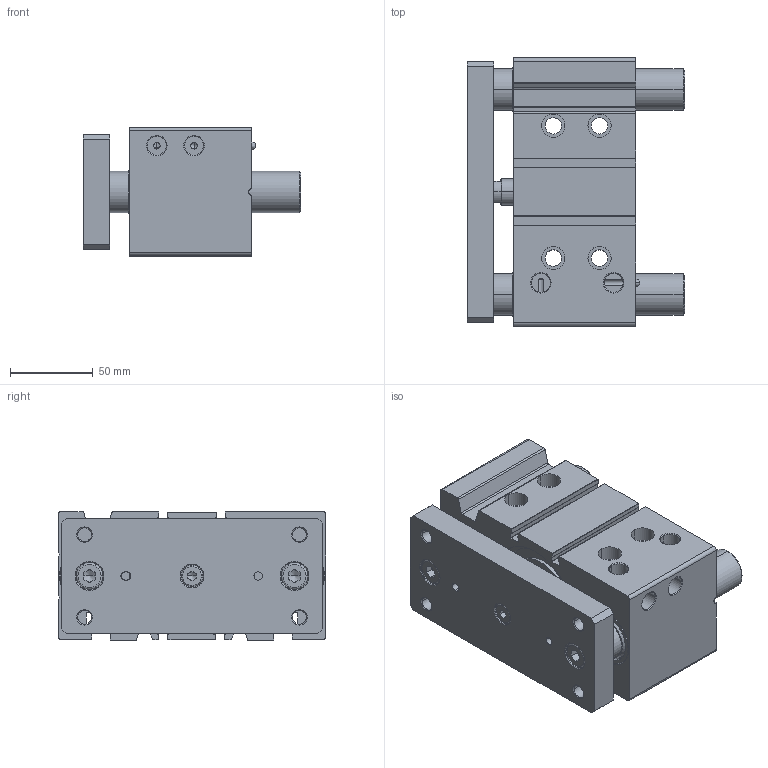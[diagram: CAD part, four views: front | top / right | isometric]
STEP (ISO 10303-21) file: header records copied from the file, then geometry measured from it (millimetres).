
FILE_DESCRIPTION (( 'STEP AP214' ), '1' );
FILE_NAME ('300601_4.STEP', '2017-01-10T15:40:16', ( '' ), ( '' ), 'SwSTEP 2.0', 'SolidWorks 2016', '' );
FILE_SCHEMA (( 'AUTOMOTIVE_DESIGN' ));
Length unit declared in the file: millimetre
Products named in the file (1): 300601_4
Bounding box: 131.5 x 162 x 78 mm (x, y, z)
Volume: 930440.6 mm3; surface area: 171550.7 mm2
Topology: 11 solids, 11 shells, 566 faces, 1495 edges, 950 vertices
Faces by surface type: cylinder 253, plane 171, cone 126, torus 10, bspline 6
Entity records: 24779 total; most frequent: CARTESIAN_POINT 4056, DIRECTION 3196, ORIENTED_EDGE 2922, EDGE_CURVE 1461, AXIS2_PLACEMENT_3D 1244, VERTEX_POINT 950, VECTOR 708, LINE 708
